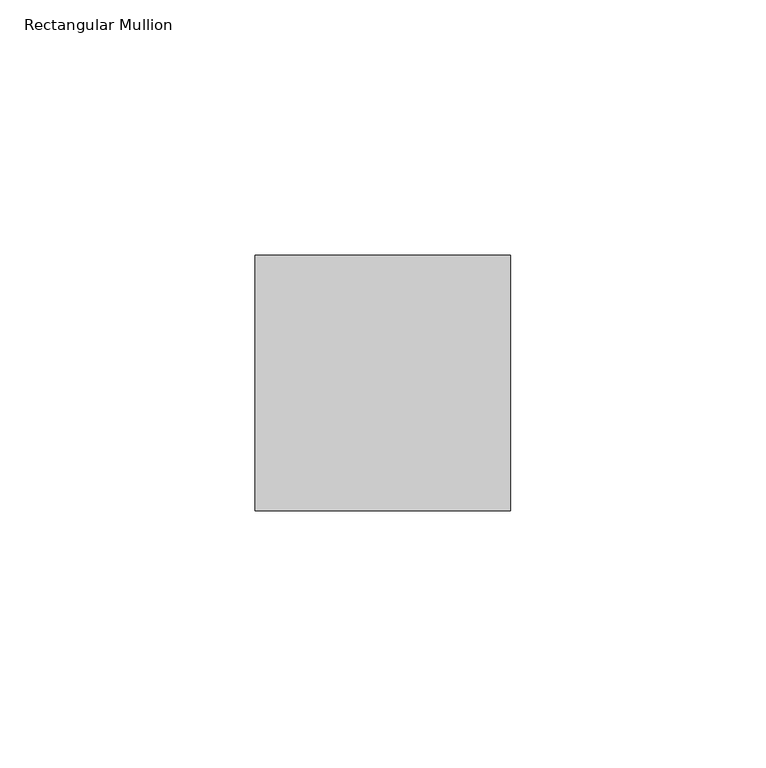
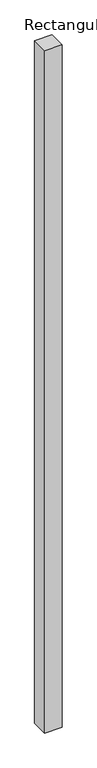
"""IFC4 building model written with IfcOpenShell, lengths in millimetres: member geometry, Rectangular Mullion : Mullion_Curtain Wall_Generic Showcase_50x50mm."""

import ifcopenshell
import ifcopenshell.guid

model = None  # the IFC model being written
_history = None  # IfcOwnerHistory: only IFC2X3 demands one
_inside = {}  # id of a spatial element -> (the spatial element, [elements in it])
_under = {}  # id of a project, library or spatial element -> (it, [spatial elements below it])
_declared = {}  # id of a project -> (the project, [libraries it declares])
_typed = {}  # id of a type object -> (the type object, [elements of that type])
_made_of = {}  # id of a material, layer set ... -> (it, [elements and type objects made of it])


def new_model(schema):
    """Start an empty IFC model of exactly this schema.

    Asked for "IFC4X3", IfcOpenShell would pick the latest addendum, in which some entities
    have other attributes; the version numbers below select the first issue.
    IFC2X3 requires an IfcOwnerHistory on every rooted entity: one is made here for all.
    """
    global model, _history
    if schema == "IFC4X3":
        model = ifcopenshell.file(schema_version=(4, 3, 0, 0))
    else:
        model = ifcopenshell.file(schema=schema)
    _inside.clear()
    _under.clear()
    _declared.clear()
    _typed.clear()
    _made_of.clear()
    _history = None
    if model.schema == "IFC2X3":
        org = make("IfcOrganization", Name="unknown")
        user = make(
            "IfcPersonAndOrganization",
            ThePerson=make("IfcPerson", FamilyName="unknown"),
            TheOrganization=org,
        )
        app = make(
            "IfcApplication",
            ApplicationDeveloper=org,
            Version="unknown",
            ApplicationFullName="unknown",
            ApplicationIdentifier="unknown",
        )
        _history = make(
            "IfcOwnerHistory",
            OwningUser=user,
            OwningApplication=app,
            ChangeAction="ADDED",
            CreationDate=0,
        )
    return model


def make(cls, **values):
    """One entity of the class cls with the attributes given. An attribute that is None is left unset."""
    return model.create_entity(
        cls, **{name: value for name, value in values.items() if value is not None}
    )


def rooted(cls, **values):
    """An entity with a GlobalId (a new one), such as an element, a storey or a relation."""
    return make(cls, GlobalId=ifcopenshell.guid.new(), OwnerHistory=_history, **values)


def si_unit(unit_type, name, prefix=None):
    """IfcSIUnit, for example si_unit("LENGTHUNIT", "METRE", prefix="MILLI")."""
    return make("IfcSIUnit", UnitType=unit_type, Prefix=prefix, Name=name)


def assignment(units):
    """IfcUnitAssignment: the units of a project."""
    return None if units is None else make("IfcUnitAssignment", Units=units)


def point(xyz):
    """IfcCartesianPoint."""
    return None if xyz is None else make("IfcCartesianPoint", Coordinates=xyz)


def direction(xyz):
    """IfcDirection."""
    return None if xyz is None else make("IfcDirection", DirectionRatios=xyz)


def frame(location, z_axis=None, x_axis=None):
    """IfcAxis2Placement3D, a coordinate frame: its origin and axes. An axis left out is left unset."""
    return make(
        "IfcAxis2Placement3D",
        Location=point(location),
        Axis=direction(z_axis),
        RefDirection=direction(x_axis),
    )


def origin():
    """The frame at (0, 0, 0) with its axes left unset."""
    return frame((0.0, 0.0, 0.0))


def place(relative_to, where):
    """IfcLocalPlacement: puts the frame where relative to a parent placement (None: the world)."""
    return make(
        "IfcLocalPlacement", PlacementRelTo=relative_to, RelativePlacement=where
    )


def context(
    kind, dimensions, precision=None, world=None, true_north=None, identifier=None
):
    """IfcGeometricRepresentationContext, for example the 3D "Model" context."""
    return make(
        "IfcGeometricRepresentationContext",
        ContextIdentifier=identifier,
        ContextType=kind,
        CoordinateSpaceDimension=dimensions,
        Precision=precision,
        WorldCoordinateSystem=world,
        TrueNorth=true_north,
    )


def project(units=None, contexts=None):
    """IfcProject with its units and contexts."""
    return rooted(
        "IfcProject",
        Name="project",
        RepresentationContexts=contexts,
        UnitsInContext=assignment(units),
    )


def spatial(cls, under=None, at=None, **own):
    """A site, building, storey or space (cls), placed at a placement, below another one or the project."""
    s = rooted(cls, ObjectPlacement=at, **own)
    if under is not None:
        _under.setdefault(under.id(), (under, []))[1].append(s)
    return s


def polyline(points):
    """IfcPolyline through the points."""
    return make("IfcPolyline", Points=[point(p) for p in points])


def outline(outer, holes=None, kind="AREA"):
    """IfcArbitraryClosedProfileDef: a profile drawn as a closed curve; with holes, ...WithVoids."""
    if holes is None:
        return make("IfcArbitraryClosedProfileDef", ProfileType=kind, OuterCurve=outer)
    return make(
        "IfcArbitraryProfileDefWithVoids",
        ProfileType=kind,
        OuterCurve=outer,
        InnerCurves=holes,
    )


def extrude(swept, where, along, depth):
    """IfcExtrudedAreaSolid: the profile swept, set in the frame where, extruded along a direction by depth."""
    return make(
        "IfcExtrudedAreaSolid",
        SweptArea=swept,
        Position=where,
        ExtrudedDirection=direction(along),
        Depth=depth,
    )


def shape(context_of_items, identifier, shape_type, items):
    """IfcShapeRepresentation: the items that make up one representation, for example the "Body"."""
    return make(
        "IfcShapeRepresentation",
        ContextOfItems=context_of_items,
        RepresentationIdentifier=identifier,
        RepresentationType=shape_type,
        Items=items,
    )


def source(mapping_origin, context_of_items, identifier, shape_type, items):
    """IfcRepresentationMap: a shape defined once, which mapped items show again and again."""
    return make(
        "IfcRepresentationMap",
        MappingOrigin=mapping_origin,
        MappedRepresentation=shape(context_of_items, identifier, shape_type, items),
    )


def transform(
    local_origin,
    x_axis=None,
    y_axis=None,
    z_axis=None,
    scale=None,
    scale2=None,
    scale3=None,
    uniform=True,
):
    """IfcCartesianTransformationOperator3D, or its non-uniform kind. x_axis, y_axis, z_axis: its Axis1, 2, 3."""
    if uniform:
        return make(
            "IfcCartesianTransformationOperator3D",
            Axis1=direction(x_axis),
            Axis2=direction(y_axis),
            LocalOrigin=point(local_origin),
            Scale=scale,
            Axis3=direction(z_axis),
        )
    return make(
        "IfcCartesianTransformationOperator3DnonUniform",
        Axis1=direction(x_axis),
        Axis2=direction(y_axis),
        LocalOrigin=point(local_origin),
        Scale=scale,
        Axis3=direction(z_axis),
        Scale2=scale2,
        Scale3=scale3,
    )


def mapped(mapping_source, mapping_target):
    """IfcMappedItem: shows the shape of a source again, moved by a transform."""
    return make(
        "IfcMappedItem", MappingSource=mapping_source, MappingTarget=mapping_target
    )


def made_of(thing, what):
    """Note that an element or type object is made of a material, layer set ...; save() writes the relation."""
    if what is not None:
        _made_of.setdefault(what.id(), (what, []))[1].append(thing)
    return thing


def element(
    cls,
    number,
    at=None,
    inside=None,
    cuts=None,
    type_object=None,
    material=None,
    context=None,
    identifier="Body",
    shape_type=None,
    held_by="IfcProductDefinitionShape",
    body=None,
    shapes=None,
    **own,
):
    """One element of the class cls, such as IfcWall. Its Tag is "e" and its number.

    at: its placement. inside: the storey or other place that contains it. cuts: it is an
    opening in that element (IfcRelVoidsElement). A single representation is given by context,
    identifier, shape_type and body (its items); several are given by shapes. held_by: the class
    of the entity that holds the representations. save() writes the other relations.
    """
    e = rooted(cls, Tag="e%d" % number, ObjectPlacement=at, **own)
    if body is not None:
        shapes = [shape(context, identifier, shape_type, body)]
    if shapes is not None:
        e.Representation = make(held_by, Representations=shapes)
    if inside is not None:
        _inside.setdefault(inside.id(), (inside, []))[1].append(e)
    if cuts is not None:
        rooted(
            "IfcRelVoidsElement", RelatingBuildingElement=cuts, RelatedOpeningElement=e
        )
    if type_object is not None:
        _typed.setdefault(type_object.id(), (type_object, []))[1].append(e)
    return made_of(e, material)


def aggregate(whole, parts):
    """IfcRelAggregates: a whole, such as a stair, and the parts it consists of."""
    return rooted("IfcRelAggregates", RelatingObject=whole, RelatedObjects=parts)


def save(model, path):
    """Write the relations noted so far, then the file.

    IfcRelAggregates (storeys below a building ...), IfcRelContainedInSpatialStructure (elements
    in a storey), IfcRelDefinesByType, IfcRelAssociatesMaterial and IfcRelDeclares: one each for
    every whole, place, type object, material and project.
    """
    for whole, parts in _under.values():
        aggregate(whole, parts)
    for where, things in _inside.values():
        rooted(
            "IfcRelContainedInSpatialStructure",
            RelatedElements=things,
            RelatingStructure=where,
        )
    for kind, things in _typed.values():
        rooted("IfcRelDefinesByType", RelatedObjects=things, RelatingType=kind)
    for what, things in _made_of.values():
        rooted("IfcRelAssociatesMaterial", RelatedObjects=things, RelatingMaterial=what)
    for by, libraries in _declared.values():
        rooted("IfcRelDeclares", RelatingContext=by, RelatedDefinitions=libraries)
    model.write(path)


def rectangular_mullion_1e400ac7(model_context):
    return source(origin(), model_context, "Body", "SweptSolid", [
        extrude(outline(polyline([(25.0, 0.0), (25.0, -50.0), (-25.0, -50.0), (-25.0, 0.0), (25.0, 0.0)])), frame((0.0, 0.0, -2075.0), z_axis=(0.0, 0.0, 1.0), x_axis=(1.0, 0.0, 0.0)), (0.0, 0.0, 1.0), 2075.0),
    ])


if __name__ == "__main__":
    model = new_model("IFC4")
    model_context = context("Model", 3, world=origin())
    ifc_project = project(units=[si_unit("LENGTHUNIT", "METRE", prefix="MILLI")], contexts=[model_context])
    site = spatial("IfcSite", under=ifc_project)
    building = spatial("IfcBuilding", under=site)
    placement = place(None, origin())
    rectangular_mullion_shape = rectangular_mullion_1e400ac7(model_context)
    element("IfcMember", 1, ObjectType="Rectangular Mullion : Mullion_Curtain Wall_Generic Showcase_50x50mm", at=placement, inside=building, context=model_context, shape_type="MappedRepresentation", body=[
        mapped(rectangular_mullion_shape, transform((0.0, 0.0, 0.0), x_axis=(1.0, 0.0, 0.0), y_axis=(0.0, 1.0, 0.0), z_axis=(0.0, 0.0, 1.0))),
    ])
    save(model, "model.ifc")
